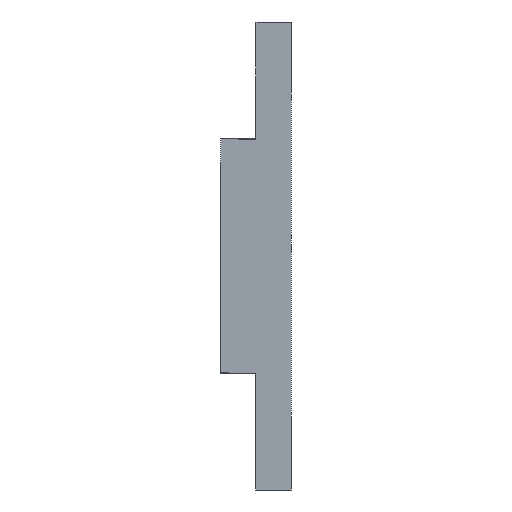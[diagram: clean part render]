
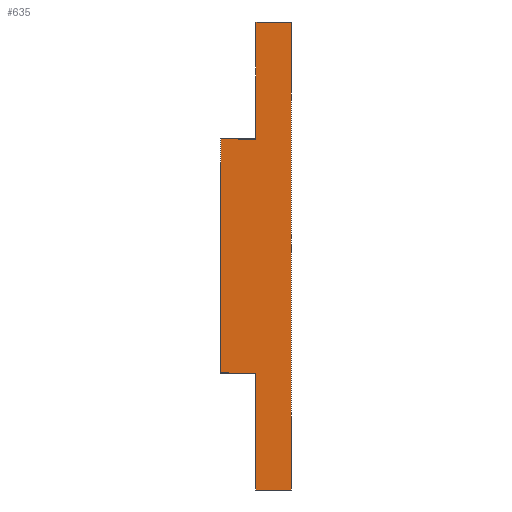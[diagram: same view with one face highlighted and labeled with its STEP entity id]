
A CAD part, left-side view. The second image highlights one B-rep face of the part: STEP entity #635.
In plain terms, the highlighted planar face has unit normal (-1, 0, 0).
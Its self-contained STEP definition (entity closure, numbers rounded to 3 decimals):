
#25 = DIRECTION ( 'NONE',  ( 0., -1., 0. ) ) ;
#40 = VERTEX_POINT ( 'NONE', #107 ) ;
#82 = DIRECTION ( 'NONE',  ( 0., 0., 1. ) ) ;
#89 = PLANE ( 'NONE',  #574 ) ;
#93 = CARTESIAN_POINT ( 'NONE',  ( 0., 3., -20. ) ) ;
#107 = CARTESIAN_POINT ( 'NONE',  ( 0., 3., -20. ) ) ;
#121 = ORIENTED_EDGE ( 'NONE', *, *, #457, .F. ) ;
#129 = EDGE_LOOP ( 'NONE', ( #534, #189, #719, #121, #699, #311, #942, #455 ) ) ;
#131 = LINE ( 'NONE', #338, #141 ) ;
#140 = CARTESIAN_POINT ( 'NONE',  ( 0., 3., -10. ) ) ;
#141 = VECTOR ( 'NONE', #485, 1000. ) ;
#145 = VERTEX_POINT ( 'NONE', #556 ) ;
#148 = EDGE_CURVE ( 'NONE', #810, #726, #685, .T. ) ;
#157 = CARTESIAN_POINT ( 'NONE',  ( 0., 6., 10. ) ) ;
#162 = EDGE_CURVE ( 'NONE', #145, #605, #131, .T. ) ;
#177 = DIRECTION ( 'NONE',  ( 0., 0., -1. ) ) ;
#184 = CARTESIAN_POINT ( 'NONE',  ( 0., 3., 20. ) ) ;
#189 = ORIENTED_EDGE ( 'NONE', *, *, #148, .F. ) ;
#190 = LINE ( 'NONE', #595, #378 ) ;
#220 = VECTOR ( 'NONE', #629, 1000. ) ;
#248 = LINE ( 'NONE', #307, #220 ) ;
#304 = EDGE_CURVE ( 'NONE', #937, #810, #248, .T. ) ;
#307 = CARTESIAN_POINT ( 'NONE',  ( 0., 3., -20. ) ) ;
#308 = LINE ( 'NONE', #587, #624 ) ;
#311 = ORIENTED_EDGE ( 'NONE', *, *, #314, .T. ) ;
#313 = CARTESIAN_POINT ( 'NONE',  ( 0., 0., 20. ) ) ;
#314 = EDGE_CURVE ( 'NONE', #145, #542, #774, .T. ) ;
#316 = CARTESIAN_POINT ( 'NONE',  ( 0., 6., 10. ) ) ;
#338 = CARTESIAN_POINT ( 'NONE',  ( 0., 6., -10. ) ) ;
#378 = VECTOR ( 'NONE', #895, 1000. ) ;
#437 = FACE_OUTER_BOUND ( 'NONE', #129, .T. ) ;
#439 = CARTESIAN_POINT ( 'NONE',  ( 0., 3., 10. ) ) ;
#455 = ORIENTED_EDGE ( 'NONE', *, *, #510, .T. ) ;
#456 = CARTESIAN_POINT ( 'NONE',  ( 0., 0., -20. ) ) ;
#457 = EDGE_CURVE ( 'NONE', #605, #937, #858, .T. ) ;
#459 = DIRECTION ( 'NONE',  ( 0., -1., 0. ) ) ;
#485 = DIRECTION ( 'NONE',  ( 0., 0., 1. ) ) ;
#503 = VECTOR ( 'NONE', #25, 1000. ) ;
#510 = EDGE_CURVE ( 'NONE', #40, #909, #308, .T. ) ;
#525 = LINE ( 'NONE', #936, #877 ) ;
#534 = ORIENTED_EDGE ( 'NONE', *, *, #898, .T. ) ;
#541 = DIRECTION ( 'NONE',  ( 0., -1., 0. ) ) ;
#542 = VERTEX_POINT ( 'NONE', #140 ) ;
#556 = CARTESIAN_POINT ( 'NONE',  ( 0., 6., -10. ) ) ;
#574 = AXIS2_PLACEMENT_3D ( 'NONE', #93, #681, #177 ) ;
#580 = CARTESIAN_POINT ( 'NONE',  ( 0., 3., 20. ) ) ;
#587 = CARTESIAN_POINT ( 'NONE',  ( 0., 3., -20. ) ) ;
#593 = VECTOR ( 'NONE', #459, 1000. ) ;
#595 = CARTESIAN_POINT ( 'NONE',  ( 0., 3., -20. ) ) ;
#605 = VERTEX_POINT ( 'NONE', #157 ) ;
#624 = VECTOR ( 'NONE', #790, 1000. ) ;
#629 = DIRECTION ( 'NONE',  ( 0., 0., 1. ) ) ;
#635 = ADVANCED_FACE ( 'NONE', ( #437 ), #89, .F. ) ;
#662 = VECTOR ( 'NONE', #541, 1000. ) ;
#681 = DIRECTION ( 'NONE',  ( 1., 0., 0. ) ) ;
#685 = LINE ( 'NONE', #184, #503 ) ;
#699 = ORIENTED_EDGE ( 'NONE', *, *, #162, .F. ) ;
#719 = ORIENTED_EDGE ( 'NONE', *, *, #304, .F. ) ;
#726 = VERTEX_POINT ( 'NONE', #313 ) ;
#749 = CARTESIAN_POINT ( 'NONE',  ( 0., 6., -10. ) ) ;
#774 = LINE ( 'NONE', #749, #593 ) ;
#790 = DIRECTION ( 'NONE',  ( 0., -1., 0. ) ) ;
#810 = VERTEX_POINT ( 'NONE', #580 ) ;
#848 = EDGE_CURVE ( 'NONE', #40, #542, #190, .T. ) ;
#858 = LINE ( 'NONE', #316, #662 ) ;
#877 = VECTOR ( 'NONE', #82, 1000. ) ;
#895 = DIRECTION ( 'NONE',  ( 0., 0., 1. ) ) ;
#898 = EDGE_CURVE ( 'NONE', #909, #726, #525, .T. ) ;
#909 = VERTEX_POINT ( 'NONE', #456 ) ;
#936 = CARTESIAN_POINT ( 'NONE',  ( 0., 0., -20. ) ) ;
#937 = VERTEX_POINT ( 'NONE', #439 ) ;
#942 = ORIENTED_EDGE ( 'NONE', *, *, #848, .F. ) ;
